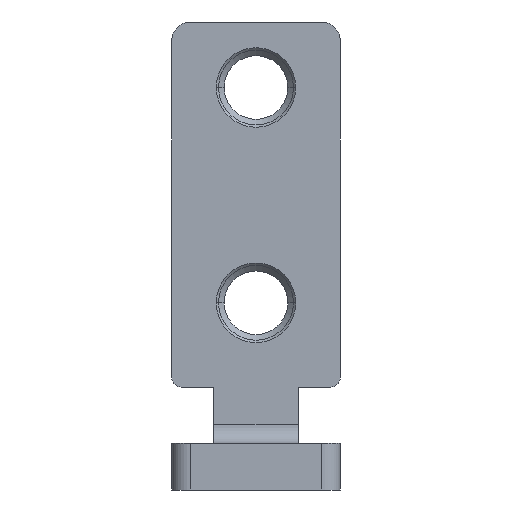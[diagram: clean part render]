
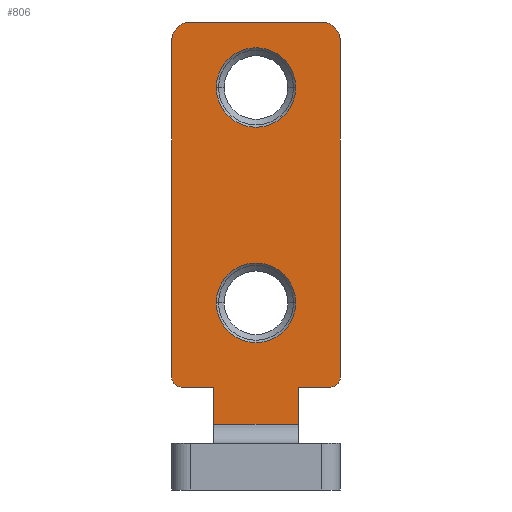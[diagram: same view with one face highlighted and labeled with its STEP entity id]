
A CAD part, left-side view. The second image highlights one B-rep face of the part: STEP entity #806.
In plain terms, the highlighted planar face has unit normal (-1, 0, 0).
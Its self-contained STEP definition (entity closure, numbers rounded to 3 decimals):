
#1=DIRECTION('',(0.,0.,1.));
#2=VECTOR('',#1,36.);
#3=CARTESIAN_POINT('',(0.,-9.,7.));
#4=LINE('',#3,#2);
#13=CARTESIAN_POINT('',(0.,-8.,7.));
#14=DIRECTION('',(-1.,0.,0.));
#15=DIRECTION('',(0.,0.,-1.));
#16=AXIS2_PLACEMENT_3D('',#13,#14,#15);
#88=CARTESIAN_POINT('',(0.,0.,38.));
#89=DIRECTION('',(-1.,0.,0.));
#90=DIRECTION('',(0.,1.,0.));
#91=AXIS2_PLACEMENT_3D('',#88,#89,#90);
#93=CARTESIAN_POINT('',(0.,0.,38.));
#94=DIRECTION('',(-1.,0.,0.));
#95=DIRECTION('',(0.,-1.,0.));
#96=AXIS2_PLACEMENT_3D('',#93,#94,#95);
#98=CARTESIAN_POINT('',(0.,0.,15.));
#99=DIRECTION('',(-1.,0.,0.));
#100=DIRECTION('',(0.,1.,0.));
#101=AXIS2_PLACEMENT_3D('',#98,#99,#100);
#103=CARTESIAN_POINT('',(0.,0.,15.));
#104=DIRECTION('',(-1.,0.,0.));
#105=DIRECTION('',(0.,-1.,0.));
#106=AXIS2_PLACEMENT_3D('',#103,#104,#105);
#108=DIRECTION('',(0.,0.,1.));
#109=VECTOR('',#108,4.);
#110=CARTESIAN_POINT('',(0.,4.5,2.));
#111=LINE('',#110,#109);
#112=DIRECTION('',(0.,-1.,0.));
#113=VECTOR('',#112,3.5);
#114=CARTESIAN_POINT('',(0.,8.,6.));
#115=LINE('',#114,#113);
#116=DIRECTION('',(0.,1.,0.));
#117=VECTOR('',#116,3.5);
#118=CARTESIAN_POINT('',(0.,-8.,6.));
#119=LINE('',#118,#117);
#120=DIRECTION('',(0.,0.,1.));
#121=VECTOR('',#120,4.);
#122=CARTESIAN_POINT('',(0.,-4.5,2.));
#123=LINE('',#122,#121);
#155=DIRECTION('',(0.,1.,0.));
#156=VECTOR('',#155,9.);
#157=CARTESIAN_POINT('',(0.,-4.5,2.));
#158=LINE('',#157,#156);
#440=CARTESIAN_POINT('',(0.,8.,7.));
#441=DIRECTION('',(-1.,0.,0.));
#442=DIRECTION('',(0.,1.,0.));
#443=AXIS2_PLACEMENT_3D('',#440,#441,#442);
#449=DIRECTION('',(0.,0.,1.));
#450=VECTOR('',#449,36.);
#451=CARTESIAN_POINT('',(0.,9.,7.));
#452=LINE('',#451,#450);
#457=CARTESIAN_POINT('',(0.,7.,43.));
#458=DIRECTION('',(-1.,0.,0.));
#459=DIRECTION('',(0.,0.,1.));
#460=AXIS2_PLACEMENT_3D('',#457,#458,#459);
#471=DIRECTION('',(0.,1.,0.));
#472=VECTOR('',#471,14.);
#473=CARTESIAN_POINT('',(0.,-7.,45.));
#474=LINE('',#473,#472);
#488=CARTESIAN_POINT('',(0.,-7.,43.));
#489=DIRECTION('',(-1.,0.,0.));
#490=DIRECTION('',(0.,-1.,0.));
#491=AXIS2_PLACEMENT_3D('',#488,#489,#490);
#493=CARTESIAN_POINT('',(0.,4.5,6.));
#495=VERTEX_POINT('',#493);
#497=CARTESIAN_POINT('',(0.,-4.5,6.));
#499=VERTEX_POINT('',#497);
#501=CARTESIAN_POINT('',(0.,7.,45.));
#503=VERTEX_POINT('',#501);
#505=CARTESIAN_POINT('',(0.,9.,43.));
#506=VERTEX_POINT('',#505);
#510=CARTESIAN_POINT('',(0.,-7.,45.));
#512=VERTEX_POINT('',#510);
#515=CARTESIAN_POINT('',(0.,-9.,43.));
#516=VERTEX_POINT('',#515);
#518=CARTESIAN_POINT('',(0.,8.,6.));
#520=VERTEX_POINT('',#518);
#523=CARTESIAN_POINT('',(0.,9.,7.));
#524=VERTEX_POINT('',#523);
#525=CARTESIAN_POINT('',(0.,-8.,6.));
#527=VERTEX_POINT('',#525);
#529=CARTESIAN_POINT('',(0.,-9.,7.));
#530=VERTEX_POINT('',#529);
#537=CARTESIAN_POINT('',(0.,4.25,38.));
#538=CARTESIAN_POINT('',(0.,-4.25,38.));
#539=VERTEX_POINT('',#537);
#540=VERTEX_POINT('',#538);
#549=CARTESIAN_POINT('',(0.,4.25,15.));
#550=CARTESIAN_POINT('',(0.,-4.25,15.));
#551=VERTEX_POINT('',#549);
#552=VERTEX_POINT('',#550);
#629=CARTESIAN_POINT('',(0.,-4.5,2.));
#630=CARTESIAN_POINT('',(0.,4.5,2.));
#631=VERTEX_POINT('',#629);
#632=VERTEX_POINT('',#630);
#767=CARTESIAN_POINT('',(0.,-9.,0.));
#768=DIRECTION('',(-1.,0.,0.));
#769=DIRECTION('',(0.,0.,1.));
#770=AXIS2_PLACEMENT_3D('',#767,#768,#769);
#771=PLANE('',#770);
#773=ORIENTED_EDGE('',*,*,#772,.T.);
#775=ORIENTED_EDGE('',*,*,#774,.T.);
#777=ORIENTED_EDGE('',*,*,#776,.F.);
#779=ORIENTED_EDGE('',*,*,#778,.F.);
#781=ORIENTED_EDGE('',*,*,#780,.T.);
#783=ORIENTED_EDGE('',*,*,#782,.F.);
#785=ORIENTED_EDGE('',*,*,#784,.F.);
#787=ORIENTED_EDGE('',*,*,#786,.F.);
#788=ORIENTED_EDGE('',*,*,#644,.F.);
#789=ORIENTED_EDGE('',*,*,#660,.F.);
#790=ORIENTED_EDGE('',*,*,#678,.T.);
#792=ORIENTED_EDGE('',*,*,#791,.F.);
#793=EDGE_LOOP('',(#773,#775,#777,#779,#781,#783,#785,#787,#788,#789,#790,
#792));
#794=FACE_OUTER_BOUND('',#793,.F.);
#796=ORIENTED_EDGE('',*,*,#795,.T.);
#797=ORIENTED_EDGE('',*,*,#757,.T.);
#798=EDGE_LOOP('',(#796,#797));
#799=FACE_BOUND('',#798,.F.);
#801=ORIENTED_EDGE('',*,*,#800,.T.);
#803=ORIENTED_EDGE('',*,*,#802,.T.);
#804=EDGE_LOOP('',(#801,#803));
#805=FACE_BOUND('',#804,.F.);
#806=ADVANCED_FACE('',(#794,#799,#805),#771,.T.);
#17=CIRCLE('',#16,1.);
#92=CIRCLE('',#91,4.25);
#97=CIRCLE('',#96,4.25);
#102=CIRCLE('',#101,4.25);
#107=CIRCLE('',#106,4.25);
#444=CIRCLE('',#443,1.);
#461=CIRCLE('',#460,2.);
#492=CIRCLE('',#491,2.);
#644=EDGE_CURVE('',#530,#516,#4,.T.);
#660=EDGE_CURVE('',#527,#530,#17,.T.);
#678=EDGE_CURVE('',#527,#499,#119,.T.);
#757=EDGE_CURVE('',#540,#539,#97,.T.);
#772=EDGE_CURVE('',#631,#632,#158,.T.);
#774=EDGE_CURVE('',#632,#495,#111,.T.);
#776=EDGE_CURVE('',#520,#495,#115,.T.);
#778=EDGE_CURVE('',#524,#520,#444,.T.);
#780=EDGE_CURVE('',#524,#506,#452,.T.);
#782=EDGE_CURVE('',#503,#506,#461,.T.);
#784=EDGE_CURVE('',#512,#503,#474,.T.);
#786=EDGE_CURVE('',#516,#512,#492,.T.);
#791=EDGE_CURVE('',#631,#499,#123,.T.);
#795=EDGE_CURVE('',#539,#540,#92,.T.);
#800=EDGE_CURVE('',#551,#552,#102,.T.);
#802=EDGE_CURVE('',#552,#551,#107,.T.);
